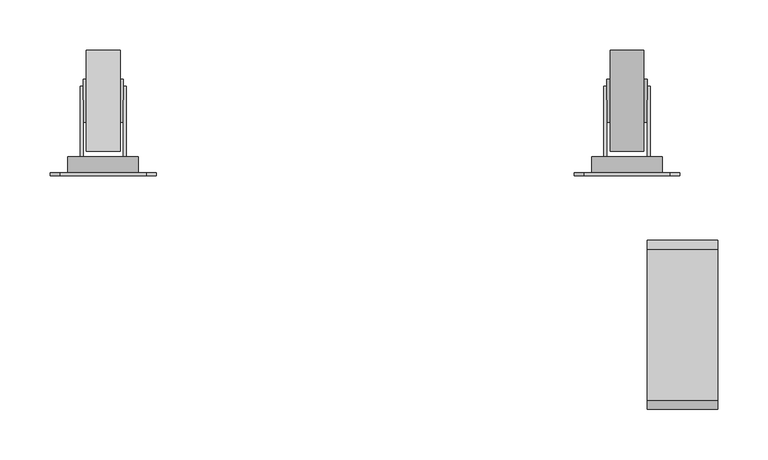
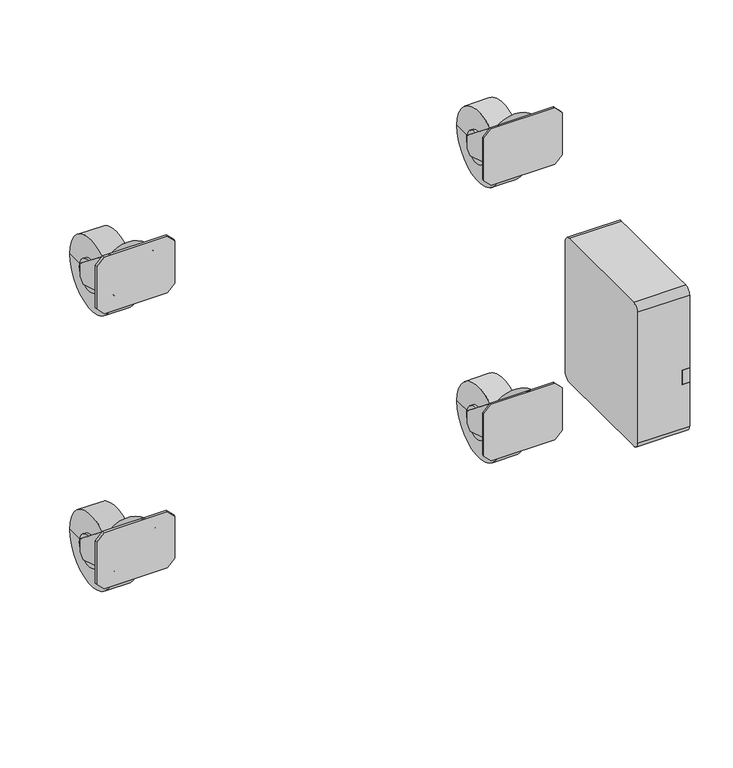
"""IFC4 building model written with IfcOpenShell, lengths in millimetres: proxy geometry, d&b SL-Series XSL-GSUB : XSL-GSUB."""

from ifc_helpers import new_model, si_unit, frame, origin, place, context, project, spatial, polyline, circle_curve, outline, extrude, source, transform, mapped, element, save
from ifc_brep_helpers import plane_surface, cylinder_surface, revolved_surface, advanced_brep


def communication_devices_84af1f5c(model_context):
    return source(origin(), model_context, "Body", "SolidModel", [
        advanced_brep(
        [(2275.0, 731.2505973, 89.499962), (2263.0, 731.2505973, 63.1181501), (2263.0, 731.2505973, 115.5781491), (2260.0, 731.2505973, 115.5781491), (2260.0, 731.2505973, 60.7771488), (2220.0, 731.2505973, 60.7771488), (2220.0, 731.2505973, 115.5781491), (2217.0, 731.2505973, 115.5781491), (2217.0, 731.2505973, 63.1181501), (2205.0, 731.2505973, 89.499962), (2205.0, 715.2505973, 89.499962), (2217.0, 715.2505973, 63.1181501), (2217.0, 715.2505973, 54.67524), (2220.0, 715.2505973, 54.67524), (2220.0, 715.2505973, 60.7771488), (2260.0, 715.2505973, 60.7771488), (2260.0, 715.2505973, 54.67524), (2263.0, 715.2505973, 54.67524), (2263.0, 715.2505973, 63.1181501), (2275.0, 715.2505973, 89.499962), (2263.0, 729.9505973, 54.67524), (2263.0, 794.4505973, 34.499962), (2263.0, 801.4505973, 41.499962), (2263.0, 801.4505973, 59.6264244), (2260.0, 801.4505973, 59.6264244), (2260.0, 801.4505973, 41.499962), (2260.0, 794.4505973, 34.499962), (2260.0, 729.9505973, 54.67524), (2217.0, 801.4505973, 59.6264244), (2217.0, 801.4505973, 41.499962), (2217.0, 794.4505973, 34.499962), (2217.0, 729.9505973, 54.67524), (2220.0, 729.9505973, 54.67524), (2220.0, 794.4505973, 34.499962), (2220.0, 801.4505973, 41.499962), (2220.0, 801.4505973, 59.6264244)],
        [
            (0, 1, circle_curve(frame((2240.0, 731.2505973, 89.499962), z_axis=(0.0, 1.0, 0.0), x_axis=(1.0, 0.0, 0.0)), 35.0)),
            (1, 2),
            (2, 3),
            (3, 4),
            (4, 5, circle_curve(frame((2240.0, 731.2505973, 89.499962), z_axis=(0.0, 1.0, 0.0), x_axis=(1.0, 0.0, 0.0)), 35.0)),
            (5, 6),
            (6, 7),
            (7, 8),
            (8, 9, circle_curve(frame((2240.0, 731.2505973, 89.499962), z_axis=(0.0, 1.0, 0.0), x_axis=(1.0, 0.0, 0.0)), 35.0)),
            (9, 0, circle_curve(frame((2240.0, 731.2505973, 89.499962), z_axis=(0.0, 1.0, 0.0), x_axis=(1.0, 0.0, 0.0)), 35.0)),
            (10, 11, circle_curve(frame((2240.0, 715.2505973, 89.499962), z_axis=(0.0, -1.0, 0.0), x_axis=(1.0, 0.0, 0.0)), 35.0)),
            (11, 12),
            (12, 13),
            (13, 14),
            (14, 15, circle_curve(frame((2240.0, 715.2505973, 89.499962), z_axis=(0.0, -1.0, 0.0), x_axis=(1.0, 0.0, 0.0)), 35.0)),
            (15, 16),
            (16, 17),
            (17, 18),
            (18, 19, circle_curve(frame((2240.0, 715.2505973, 89.499962), z_axis=(0.0, -1.0, 0.0), x_axis=(1.0, 0.0, 0.0)), 35.0)),
            (19, 10, circle_curve(frame((2240.0, 715.2505973, 89.499962), z_axis=(0.0, -1.0, 0.0), x_axis=(1.0, 0.0, 0.0)), 35.0)),
            (8, 11),
            (10, 9),
            (14, 5),
            (4, 15),
            (18, 1),
            (0, 19),
            (17, 20),
            (20, 21),
            (21, 22),
            (22, 23),
            (23, 2),
            (3, 24),
            (24, 25),
            (25, 26),
            (26, 27),
            (27, 16),
            (23, 24),
            (22, 25),
            (21, 26),
            (20, 27),
            (7, 28),
            (28, 29),
            (29, 30),
            (30, 31),
            (31, 12),
            (13, 32),
            (32, 33),
            (33, 34),
            (34, 35),
            (35, 6),
            (35, 28),
            (34, 29),
            (33, 30),
            (32, 31),
        ],
        [
            plane_surface(frame((2275.0, 731.2505973, 89.499962), z_axis=(0.0, 1.0, 0.0), x_axis=(0.0, 0.0, 1.0))),
            plane_surface(frame((2275.0, 715.2505973, 89.499962), z_axis=(0.0, -1.0, 0.0), x_axis=(0.0, 0.0, -1.0))),
            cylinder_surface(frame((2240.0, 715.2505973, 89.499962), z_axis=(0.0, 1.0, 0.0), x_axis=(1.0, 0.0, 0.0)), 35.0),
            plane_surface(frame((2263.0, 785.1202866, 72.6422228), z_axis=(1.0000000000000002, 0.0, 0.0), x_axis=(0.0, 0.7819992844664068, -0.6232793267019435))),
            plane_surface(frame((2260.0, 785.1202866, 72.6422228), z_axis=(-1.0000000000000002, 0.0, 0.0), x_axis=(0.0, -0.7819992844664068, 0.6232793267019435))),
            plane_surface(frame((2263.0, 731.2505973, 115.5781491), z_axis=(0.0, 0.6232793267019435, 0.7819992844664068), x_axis=(-1.0, 0.0, 0.0))),
            plane_surface(frame((2263.0, 801.4505973, 59.6264244), z_axis=(0.0, 1.0, 0.0), x_axis=(-1.0, 0.0, 0.0))),
            plane_surface(frame((2263.0, 801.4505973, 41.499962), z_axis=(0.0, 0.7071067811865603, -0.7071067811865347), x_axis=(-1.0, 0.0, 0.0))),
            plane_surface(frame((2263.0, 794.4505973, 34.499962), z_axis=(0.0, -0.29853148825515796, -0.9543997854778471), x_axis=(-1.0, 0.0, 0.0))),
            plane_surface(frame((2263.0, 729.9505973, 54.67524), z_axis=(0.0, 0.0, -1.0), x_axis=(-1.0, 0.0, 0.0))),
            plane_surface(frame((2217.0, 731.2505973, 115.5781491), z_axis=(-1.0, 0.0, 0.0), x_axis=(0.0, -1.0, 0.0))),
            plane_surface(frame((2220.0, 731.2505973, 115.5781491), z_axis=(1.0, 0.0, 0.0), x_axis=(0.0, 1.0, 0.0))),
            plane_surface(frame((2217.0, 801.4505973, 59.6264244), z_axis=(0.0, 0.6232793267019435, 0.7819992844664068), x_axis=(1.0, 0.0, 0.0))),
            plane_surface(frame((2217.0, 801.4505973, 41.499962), z_axis=(0.0, 1.0, 0.0), x_axis=(1.0, 0.0, 0.0))),
            plane_surface(frame((2217.0, 794.4505973, 34.499962), z_axis=(0.0, 0.7071067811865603, -0.7071067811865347), x_axis=(1.0, 0.0, 0.0))),
            plane_surface(frame((2217.0, 729.9505973, 54.67524), z_axis=(0.0, -0.29853148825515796, -0.9543997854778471), x_axis=(1.0, 0.0, 0.0))),
            plane_surface(frame((2217.0, 715.2505973, 54.67524), z_axis=(0.0, 0.0, -1.0), x_axis=(1.0, 0.0, 0.0))),
        ],
        [
            (0, [[1, 2, 3, 4, 5, 6, 7, 8, 9, 10]]),
            (1, [[11, 12, 13, 14, 15, 16, 17, 18, 19, 20]]),
            (2, [[-9, 21, -11, 22]]),
            (2, [[-15, 23, -5, 24]]),
            (2, [[-19, 25, -1, 26]]),
            (2, [[-22, -20, -26, -10]]),
            (3, [[-2, -25, -18, 27, 28, 29, 30, 31]]),
            (4, [[-16, -24, -4, 32, 33, 34, 35, 36]]),
            (5, [[37, -32, -3, -31]]),
            (6, [[38, -33, -37, -30]]),
            (7, [[39, -34, -38, -29]]),
            (8, [[40, -35, -39, -28]]),
            (9, [[-17, -36, -40, -27]]),
            (10, [[-12, -21, -8, 41, 42, 43, 44, 45]]),
            (11, [[-6, -23, -14, 46, 47, 48, 49, 50]]),
            (12, [[-7, -50, 51, -41]]),
            (13, [[-51, -49, 52, -42]]),
            (14, [[-52, -48, 53, -43]]),
            (15, [[-53, -47, 54, -44]]),
            (16, [[-54, -46, -13, -45]]),
        ],
    ),
        extrude(outline(polyline([(129.5, 2197.500038), (119.499962, 2187.5), (59.499962, 2187.5), (49.499924, 2197.500038), (49.499924, 2282.499962), (59.499962, 2292.5), (119.499962, 2292.5), (129.5, 2282.499962), (129.5, 2197.500038)])), frame((0.0, 712.2505973, 0.0), z_axis=(0.0, 1.0, 0.0), x_axis=(0.0, 0.0, 1.0)), (0.0, 0.0, 1.0), 3.0),
        advanced_brep(
        [(2256.6767578, 736.9067763, 49.9678867), (2223.3232422, 736.9067763, 49.9678867), (2223.3232422, 836.9067763, 49.9678867), (2256.6767578, 836.9067763, 49.9678867), (2256.6767578, 765.493179, 49.9678867), (2256.6767578, 808.3203735, 49.9678867), (2260.0, 765.493179, 49.9678867), (2260.0, 808.3203735, 49.9678867), (2260.0, 786.9067763, 49.9678867), (2220.0, 765.493179, 49.9678867), (2220.0, 786.9067763, 49.9678867), (2220.0, 808.3203735, 49.9678867), (2223.3232422, 765.493179, 49.9678867), (2223.3232422, 808.3203735, 49.9678867)],
        [
            (0, 1),
            (1, 2, circle_curve(frame((2223.3232422, 786.9067763, 49.9678867), z_axis=(1.0, 0.0, 0.0), x_axis=(0.0, 1.0, 0.0)), 50.0)),
            (2, 3),
            (3, 0, circle_curve(frame((2256.6767578, 786.9067763, 49.9678867), z_axis=(-1.0, 0.0, 0.0), x_axis=(0.0, 1.0, 0.0)), 50.0)),
            (2, 1, circle_curve(frame((2223.3232422, 786.9067763, 49.9678867), z_axis=(1.0, 0.0, 0.0), x_axis=(0.0, 1.0, 0.0)), 50.0)),
            (0, 3, circle_curve(frame((2256.6767578, 786.9067763, 49.9678867), z_axis=(-1.0, 0.0, 0.0), x_axis=(0.0, 1.0, 0.0)), 50.0)),
            (4, 0),
            (3, 5),
            (5, 4, circle_curve(frame((2256.6767578, 786.9067763, 49.9678867), z_axis=(-1.0, 0.0, 0.0), x_axis=(0.0, 1.0, 0.0)), 21.4135972)),
            (4, 5, circle_curve(frame((2256.6767578, 786.9067763, 49.9678867), z_axis=(-1.0, 0.0, 0.0), x_axis=(0.0, 1.0, 0.0)), 21.4135972)),
            (6, 4),
            (5, 7),
            (7, 6, circle_curve(frame((2260.0, 786.9067763, 49.9678867), z_axis=(-1.0, 0.0, 0.0), x_axis=(0.0, 1.0, 0.0)), 21.4135972)),
            (6, 7, circle_curve(frame((2260.0, 786.9067763, 49.9678867), z_axis=(-1.0, 0.0, 0.0), x_axis=(0.0, 1.0, 0.0)), 21.4135972)),
            (8, 6),
            (7, 8),
            (9, 10),
            (10, 11),
            (11, 9, circle_curve(frame((2220.0, 786.9067763, 49.9678867), z_axis=(-1.0, 0.0, 0.0), x_axis=(0.0, 1.0, 0.0)), 21.4135972)),
            (9, 11, circle_curve(frame((2220.0, 786.9067763, 49.9678867), z_axis=(-1.0, 0.0, 0.0), x_axis=(0.0, 1.0, 0.0)), 21.4135972)),
            (12, 9),
            (11, 13),
            (13, 12, circle_curve(frame((2223.3232422, 786.9067763, 49.9678867), z_axis=(-1.0, 0.0, 0.0), x_axis=(0.0, 1.0, 0.0)), 21.4135972)),
            (12, 13, circle_curve(frame((2223.3232422, 786.9067763, 49.9678867), z_axis=(-1.0, 0.0, 0.0), x_axis=(0.0, 1.0, 0.0)), 21.4135972)),
            (1, 12),
            (13, 2),
        ],
        [
            cylinder_surface(frame((2282.9432543, 786.9067763, 49.9678867), z_axis=(1.0, 0.0, 0.0), x_axis=(0.0, 1.0, 0.0)), 50.0),
            plane_surface(frame((2256.6767578, 786.9067763, 49.9678867), z_axis=(1.0, 0.0, 0.0), x_axis=(0.0, 1.0, 0.0))),
            cylinder_surface(frame((2282.9432543, 786.9067763, 49.9678867), z_axis=(1.0, 0.0, 0.0), x_axis=(0.0, 1.0, 0.0)), 21.4135972),
            plane_surface(frame((2260.0, 786.9067763, 49.9678867), z_axis=(1.0, 0.0, 0.0), x_axis=(0.0, 1.0, 0.0))),
            plane_surface(frame((2220.0, 786.9067763, 49.9678867), z_axis=(-1.0, 0.0, 0.0), x_axis=(0.0, 1.0, 0.0))),
            plane_surface(frame((2223.3232422, 786.9067763, 49.9678867), z_axis=(-1.0, 0.0, 0.0), x_axis=(0.0, 1.0, 0.0))),
        ],
        [
            (0, [[1, 2, 3, 4]]),
            (0, [[-3, 5, -1, 6]]),
            (1, [[7, -4, 8, 9]]),
            (1, [[-8, -6, -7, 10]]),
            (2, [[11, -9, 12, 13]]),
            (2, [[-12, -10, -11, 14]]),
            (3, [[15, -13, 16]]),
            (3, [[-16, -14, -15]]),
            (4, [[17, 18, 19]]),
            (4, [[-18, -17, 20]]),
            (2, [[21, -19, 22, 23]]),
            (2, [[-22, -20, -21, 24]]),
            (5, [[25, -23, 26, -2]]),
            (5, [[-26, -24, -25, -5]]),
        ],
    ),
        advanced_brep(
        [(2725.0, 731.2505973, 89.499962), (2795.0, 731.2505973, 89.499962), (2783.0, 731.2505973, 63.1181501), (2783.0, 731.2505973, 115.5781491), (2780.0, 731.2505973, 115.5781491), (2780.0, 731.2505973, 60.7771488), (2740.0, 731.2505973, 60.7771488), (2740.0, 731.2505973, 115.5781491), (2737.0, 731.2505973, 115.5781491), (2737.0, 731.2505973, 63.1181501), (2795.0, 715.2505973, 89.499962), (2725.0, 715.2505973, 89.499962), (2737.0, 715.2505973, 63.1181501), (2737.0, 715.2505973, 54.67524), (2740.0, 715.2505973, 54.67524), (2740.0, 715.2505973, 60.7771488), (2780.0, 715.2505973, 60.7771488), (2780.0, 715.2505973, 54.67524), (2783.0, 715.2505973, 54.67524), (2783.0, 715.2505973, 63.1181501), (2737.0, 801.4505973, 59.6264244), (2737.0, 801.4505973, 41.499962), (2737.0, 794.4505973, 34.499962), (2737.0, 729.9505973, 54.67524), (2740.0, 729.9505973, 54.67524), (2740.0, 794.4505973, 34.499962), (2740.0, 801.4505973, 41.499962), (2740.0, 801.4505973, 59.6264244), (2783.0, 729.9505973, 54.67524), (2783.0, 794.4505973, 34.499962), (2783.0, 801.4505973, 41.499962), (2783.0, 801.4505973, 59.6264244), (2780.0, 801.4505973, 59.6264244), (2780.0, 801.4505973, 41.499962), (2780.0, 794.4505973, 34.499962), (2780.0, 729.9505973, 54.67524)],
        [
            (0, 1, circle_curve(frame((2760.0, 731.2505973, 89.499962), z_axis=(0.0, 1.0, 0.0), x_axis=(-1.0, 0.0, 0.0)), 35.0)),
            (1, 2, circle_curve(frame((2760.0, 731.2505973, 89.499962), z_axis=(0.0, 1.0, 0.0), x_axis=(-1.0, 0.0, 0.0)), 35.0)),
            (2, 3),
            (3, 4),
            (4, 5),
            (5, 6, circle_curve(frame((2760.0, 731.2505973, 89.499962), z_axis=(0.0, 1.0, 0.0), x_axis=(-1.0, 0.0, 0.0)), 35.0)),
            (6, 7),
            (7, 8),
            (8, 9),
            (9, 0, circle_curve(frame((2760.0, 731.2505973, 89.499962), z_axis=(0.0, 1.0, 0.0), x_axis=(-1.0, 0.0, 0.0)), 35.0)),
            (10, 11, circle_curve(frame((2760.0, 715.2505973, 89.499962), z_axis=(0.0, -1.0, 0.0), x_axis=(-1.0, 0.0, 0.0)), 35.0)),
            (11, 12, circle_curve(frame((2760.0, 715.2505973, 89.499962), z_axis=(0.0, -1.0, 0.0), x_axis=(-1.0, 0.0, 0.0)), 35.0)),
            (12, 13),
            (13, 14),
            (14, 15),
            (15, 16, circle_curve(frame((2760.0, 715.2505973, 89.499962), z_axis=(0.0, -1.0, 0.0), x_axis=(-1.0, 0.0, 0.0)), 35.0)),
            (16, 17),
            (17, 18),
            (18, 19),
            (19, 10, circle_curve(frame((2760.0, 715.2505973, 89.499962), z_axis=(0.0, -1.0, 0.0), x_axis=(-1.0, 0.0, 0.0)), 35.0)),
            (1, 10),
            (19, 2),
            (15, 6),
            (5, 16),
            (11, 0),
            (9, 12),
            (8, 20),
            (20, 21),
            (21, 22),
            (22, 23),
            (23, 13),
            (14, 24),
            (24, 25),
            (25, 26),
            (26, 27),
            (27, 7),
            (27, 20),
            (26, 21),
            (25, 22),
            (24, 23),
            (18, 28),
            (28, 29),
            (29, 30),
            (30, 31),
            (31, 3),
            (4, 32),
            (32, 33),
            (33, 34),
            (34, 35),
            (35, 17),
            (31, 32),
            (30, 33),
            (29, 34),
            (28, 35),
        ],
        [
            plane_surface(frame((2725.0, 731.2505973, 89.499962), z_axis=(0.0, 1.0, 0.0), x_axis=(0.0, 0.0, 1.0))),
            plane_surface(frame((2725.0, 715.2505973, 89.499962), z_axis=(0.0, -1.0, 0.0), x_axis=(0.0, 0.0, -1.0))),
            cylinder_surface(frame((2760.0, 715.2505973, 89.499962), z_axis=(0.0, 1.0, 0.0), x_axis=(-1.0, 0.0, 0.0)), 35.0),
            plane_surface(frame((2737.0, 785.1202866, 72.6422228), z_axis=(-1.0000000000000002, 0.0, 0.0), x_axis=(0.0, 0.7819992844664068, -0.6232793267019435))),
            plane_surface(frame((2740.0, 785.1202866, 72.6422228), z_axis=(1.0000000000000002, 0.0, 0.0), x_axis=(0.0, -0.7819992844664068, 0.6232793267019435))),
            plane_surface(frame((2737.0, 731.2505973, 115.5781491), z_axis=(0.0, 0.6232793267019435, 0.7819992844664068), x_axis=(1.0, 0.0, 0.0))),
            plane_surface(frame((2737.0, 801.4505973, 59.6264244), z_axis=(0.0, 1.0, 0.0), x_axis=(1.0, 0.0, 0.0))),
            plane_surface(frame((2737.0, 801.4505973, 41.499962), z_axis=(0.0, 0.7071067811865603, -0.7071067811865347), x_axis=(1.0, 0.0, 0.0))),
            plane_surface(frame((2737.0, 794.4505973, 34.499962), z_axis=(0.0, -0.29853148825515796, -0.9543997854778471), x_axis=(1.0, 0.0, 0.0))),
            plane_surface(frame((2737.0, 729.9505973, 54.67524), z_axis=(0.0, 0.0, -1.0), x_axis=(1.0, 0.0, 0.0))),
            plane_surface(frame((2783.0, 731.2505973, 115.5781491), z_axis=(1.0, 0.0, 0.0), x_axis=(0.0, -1.0, 0.0))),
            plane_surface(frame((2780.0, 731.2505973, 115.5781491), z_axis=(-1.0, 0.0, 0.0), x_axis=(0.0, 1.0, 0.0))),
            plane_surface(frame((2783.0, 801.4505973, 59.6264244), z_axis=(0.0, 0.6232793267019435, 0.7819992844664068), x_axis=(-1.0, 0.0, 0.0))),
            plane_surface(frame((2783.0, 801.4505973, 41.499962), z_axis=(0.0, 1.0, 0.0), x_axis=(-1.0, 0.0, 0.0))),
            plane_surface(frame((2783.0, 794.4505973, 34.499962), z_axis=(0.0, 0.7071067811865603, -0.7071067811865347), x_axis=(-1.0, 0.0, 0.0))),
            plane_surface(frame((2783.0, 729.9505973, 54.67524), z_axis=(0.0, -0.29853148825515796, -0.9543997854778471), x_axis=(-1.0, 0.0, 0.0))),
            plane_surface(frame((2783.0, 715.2505973, 54.67524), z_axis=(0.0, 0.0, -1.0), x_axis=(-1.0, 0.0, 0.0))),
        ],
        [
            (0, [[1, 2, 3, 4, 5, 6, 7, 8, 9, 10]]),
            (1, [[11, 12, 13, 14, 15, 16, 17, 18, 19, 20]]),
            (2, [[21, -20, 22, -2]]),
            (2, [[23, -6, 24, -16]]),
            (2, [[25, -10, 26, -12]]),
            (2, [[-1, -25, -11, -21]]),
            (3, [[27, 28, 29, 30, 31, -13, -26, -9]]),
            (4, [[32, 33, 34, 35, 36, -7, -23, -15]]),
            (5, [[-27, -8, -36, 37]]),
            (6, [[-28, -37, -35, 38]]),
            (7, [[-29, -38, -34, 39]]),
            (8, [[-30, -39, -33, 40]]),
            (9, [[-31, -40, -32, -14]]),
            (10, [[41, 42, 43, 44, 45, -3, -22, -19]]),
            (11, [[46, 47, 48, 49, 50, -17, -24, -5]]),
            (12, [[-45, 51, -46, -4]]),
            (13, [[-44, 52, -47, -51]]),
            (14, [[-43, 53, -48, -52]]),
            (15, [[-42, 54, -49, -53]]),
            (16, [[-41, -18, -50, -54]]),
        ],
    ),
        extrude(outline(polyline([(129.5, 2802.499962), (129.5, 2717.500038), (119.499962, 2707.5), (59.499962, 2707.5), (49.499924, 2717.500038), (49.499924, 2802.499962), (59.499962, 2812.5), (119.499962, 2812.5), (129.5, 2802.499962)])), frame((0.0, 712.2505973, 0.0), z_axis=(0.0, 1.0, 0.0), x_axis=(0.0, 0.0, 1.0)), (0.0, 0.0, 1.0), 3.0),
        advanced_brep(
        [(2743.3232422, 736.9067763, 49.9678867), (2743.3232422, 836.9067763, 49.9678867), (2776.6767578, 836.9067763, 49.9678867), (2776.6767578, 736.9067763, 49.9678867), (2743.3232422, 765.493179, 49.9678867), (2743.3232422, 808.3203735, 49.9678867), (2740.0, 765.493179, 49.9678867), (2740.0, 808.3203735, 49.9678867), (2740.0, 786.9067763, 49.9678867), (2780.0, 765.493179, 49.9678867), (2780.0, 808.3203735, 49.9678867), (2780.0, 786.9067763, 49.9678867), (2776.6767578, 765.493179, 49.9678867), (2776.6767578, 808.3203735, 49.9678867)],
        [
            (0, 1, circle_curve(frame((2743.3232422, 786.9067763, 49.9678867), z_axis=(1.0, 0.0, 0.0), x_axis=(0.0, 1.0, 0.0)), 50.0)),
            (1, 2),
            (2, 3, circle_curve(frame((2776.6767578, 786.9067763, 49.9678867), z_axis=(-1.0, 0.0, 0.0), x_axis=(0.0, 1.0, 0.0)), 50.0)),
            (3, 0),
            (1, 0, circle_curve(frame((2743.3232422, 786.9067763, 49.9678867), z_axis=(1.0, 0.0, 0.0), x_axis=(0.0, 1.0, 0.0)), 50.0)),
            (3, 2, circle_curve(frame((2776.6767578, 786.9067763, 49.9678867), z_axis=(-1.0, 0.0, 0.0), x_axis=(0.0, 1.0, 0.0)), 50.0)),
            (4, 5, circle_curve(frame((2743.3232422, 786.9067763, 49.9678867), z_axis=(1.0, 0.0, 0.0), x_axis=(0.0, 1.0, 0.0)), 21.4135972)),
            (5, 1),
            (0, 4),
            (5, 4, circle_curve(frame((2743.3232422, 786.9067763, 49.9678867), z_axis=(1.0, 0.0, 0.0), x_axis=(0.0, 1.0, 0.0)), 21.4135972)),
            (6, 7, circle_curve(frame((2740.0, 786.9067763, 49.9678867), z_axis=(1.0, 0.0, 0.0), x_axis=(0.0, 1.0, 0.0)), 21.4135972)),
            (7, 5),
            (4, 6),
            (7, 6, circle_curve(frame((2740.0, 786.9067763, 49.9678867), z_axis=(1.0, 0.0, 0.0), x_axis=(0.0, 1.0, 0.0)), 21.4135972)),
            (8, 7),
            (6, 8),
            (9, 10, circle_curve(frame((2780.0, 786.9067763, 49.9678867), z_axis=(1.0, 0.0, 0.0), x_axis=(0.0, 1.0, 0.0)), 21.4135972)),
            (10, 11),
            (11, 9),
            (10, 9, circle_curve(frame((2780.0, 786.9067763, 49.9678867), z_axis=(1.0, 0.0, 0.0), x_axis=(0.0, 1.0, 0.0)), 21.4135972)),
            (12, 13, circle_curve(frame((2776.6767578, 786.9067763, 49.9678867), z_axis=(1.0, 0.0, 0.0), x_axis=(0.0, 1.0, 0.0)), 21.4135972)),
            (13, 10),
            (9, 12),
            (13, 12, circle_curve(frame((2776.6767578, 786.9067763, 49.9678867), z_axis=(1.0, 0.0, 0.0), x_axis=(0.0, 1.0, 0.0)), 21.4135972)),
            (2, 13),
            (12, 3),
        ],
        [
            cylinder_surface(frame((2717.0567457, 786.9067763, 49.9678867), z_axis=(-1.0, 0.0, 0.0), x_axis=(0.0, 1.0, 0.0)), 50.0),
            plane_surface(frame((2743.3232422, 786.9067763, 49.9678867), z_axis=(-1.0, 0.0, 0.0), x_axis=(0.0, 1.0, 0.0))),
            cylinder_surface(frame((2717.0567457, 786.9067763, 49.9678867), z_axis=(-1.0, 0.0, 0.0), x_axis=(0.0, 1.0, 0.0)), 21.4135972),
            plane_surface(frame((2740.0, 786.9067763, 49.9678867), z_axis=(-1.0, 0.0, 0.0), x_axis=(0.0, 1.0, 0.0))),
            plane_surface(frame((2780.0, 786.9067763, 49.9678867), z_axis=(1.0, 0.0, 0.0), x_axis=(0.0, 1.0, 0.0))),
            plane_surface(frame((2776.6767578, 786.9067763, 49.9678867), z_axis=(1.0, 0.0, 0.0), x_axis=(0.0, 1.0, 0.0))),
        ],
        [
            (0, [[1, 2, 3, 4]]),
            (0, [[5, -4, 6, -2]]),
            (1, [[7, 8, -1, 9]]),
            (1, [[10, -9, -5, -8]]),
            (2, [[11, 12, -7, 13]]),
            (2, [[14, -13, -10, -12]]),
            (3, [[15, -11, 16]]),
            (3, [[-16, -14, -15]]),
            (4, [[17, 18, 19]]),
            (4, [[20, -19, -18]]),
            (2, [[21, 22, -17, 23]]),
            (2, [[24, -23, -20, -22]]),
            (5, [[-3, 25, -21, 26]]),
            (5, [[-6, -26, -24, -25]]),
        ],
    ),
        advanced_brep(
        [(2275.0, 731.2505973, 480.499962), (2263.0, 731.2505973, 454.1181501), (2263.0, 731.2505973, 506.5781491), (2260.0, 731.2505973, 506.5781491), (2260.0, 731.2505973, 451.7771488), (2220.0, 731.2505973, 451.7771488), (2220.0, 731.2505973, 506.5781491), (2217.0, 731.2505973, 506.5781491), (2217.0, 731.2505973, 454.1181501), (2205.0, 731.2505973, 480.499962), (2205.0, 715.2505973, 480.499962), (2217.0, 715.2505973, 454.1181501), (2217.0, 715.2505973, 445.67524), (2220.0, 715.2505973, 445.67524), (2220.0, 715.2505973, 451.7771488), (2260.0, 715.2505973, 451.7771488), (2260.0, 715.2505973, 445.67524), (2263.0, 715.2505973, 445.67524), (2263.0, 715.2505973, 454.1181501), (2275.0, 715.2505973, 480.499962), (2263.0, 729.9505973, 445.67524), (2263.0, 794.4505973, 425.499962), (2263.0, 801.4505973, 432.499962), (2263.0, 801.4505973, 450.6264244), (2260.0, 801.4505973, 450.6264244), (2260.0, 801.4505973, 432.499962), (2260.0, 794.4505973, 425.499962), (2260.0, 729.9505973, 445.67524), (2217.0, 801.4505973, 450.6264244), (2217.0, 801.4505973, 432.499962), (2217.0, 794.4505973, 425.499962), (2217.0, 729.9505973, 445.67524), (2220.0, 729.9505973, 445.67524), (2220.0, 794.4505973, 425.499962), (2220.0, 801.4505973, 432.499962), (2220.0, 801.4505973, 450.6264244)],
        [
            (0, 1, circle_curve(frame((2240.0, 731.2505973, 480.499962), z_axis=(0.0, 1.0, 0.0), x_axis=(1.0, 0.0, 0.0)), 35.0)),
            (1, 2),
            (2, 3),
            (3, 4),
            (4, 5, circle_curve(frame((2240.0, 731.2505973, 480.499962), z_axis=(0.0, 1.0, 0.0), x_axis=(1.0, 0.0, 0.0)), 35.0)),
            (5, 6),
            (6, 7),
            (7, 8),
            (8, 9, circle_curve(frame((2240.0, 731.2505973, 480.499962), z_axis=(0.0, 1.0, 0.0), x_axis=(1.0, 0.0, 0.0)), 35.0)),
            (9, 0, circle_curve(frame((2240.0, 731.2505973, 480.499962), z_axis=(0.0, 1.0, 0.0), x_axis=(1.0, 0.0, 0.0)), 35.0)),
            (10, 11, circle_curve(frame((2240.0, 715.2505973, 480.499962), z_axis=(0.0, -1.0, 0.0), x_axis=(1.0, 0.0, 0.0)), 35.0)),
            (11, 12),
            (12, 13),
            (13, 14),
            (14, 15, circle_curve(frame((2240.0, 715.2505973, 480.499962), z_axis=(0.0, -1.0, 0.0), x_axis=(1.0, 0.0, 0.0)), 35.0)),
            (15, 16),
            (16, 17),
            (17, 18),
            (18, 19, circle_curve(frame((2240.0, 715.2505973, 480.499962), z_axis=(0.0, -1.0, 0.0), x_axis=(1.0, 0.0, 0.0)), 35.0)),
            (19, 10, circle_curve(frame((2240.0, 715.2505973, 480.499962), z_axis=(0.0, -1.0, 0.0), x_axis=(1.0, 0.0, 0.0)), 35.0)),
            (8, 11),
            (10, 9),
            (14, 5),
            (4, 15),
            (18, 1),
            (0, 19),
            (17, 20),
            (20, 21),
            (21, 22),
            (22, 23),
            (23, 2),
            (3, 24),
            (24, 25),
            (25, 26),
            (26, 27),
            (27, 16),
            (23, 24),
            (22, 25),
            (21, 26),
            (20, 27),
            (7, 28),
            (28, 29),
            (29, 30),
            (30, 31),
            (31, 12),
            (13, 32),
            (32, 33),
            (33, 34),
            (34, 35),
            (35, 6),
            (35, 28),
            (34, 29),
            (33, 30),
            (32, 31),
        ],
        [
            plane_surface(frame((2275.0, 731.2505973, 480.499962), z_axis=(0.0, 1.0, 0.0), x_axis=(0.0, 0.0, 1.0))),
            plane_surface(frame((2275.0, 715.2505973, 480.499962), z_axis=(0.0, -1.0, 0.0), x_axis=(0.0, 0.0, -1.0))),
            cylinder_surface(frame((2240.0, 715.2505973, 480.499962), z_axis=(0.0, 1.0, 0.0), x_axis=(1.0, 0.0, 0.0)), 35.0),
            plane_surface(frame((2263.0, 785.1202866, 463.6422228), z_axis=(1.0000000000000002, 0.0, 0.0), x_axis=(0.0, 0.7819992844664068, -0.6232793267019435))),
            plane_surface(frame((2260.0, 785.1202866, 463.6422228), z_axis=(-1.0000000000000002, 0.0, 0.0), x_axis=(0.0, -0.7819992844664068, 0.6232793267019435))),
            plane_surface(frame((2263.0, 731.2505973, 506.5781491), z_axis=(0.0, 0.6232793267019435, 0.7819992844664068), x_axis=(-1.0, 0.0, 0.0))),
            plane_surface(frame((2263.0, 801.4505973, 450.6264244), z_axis=(0.0, 1.0, 0.0), x_axis=(-1.0, 0.0, 0.0))),
            plane_surface(frame((2263.0, 801.4505973, 432.499962), z_axis=(0.0, 0.7071067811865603, -0.7071067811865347), x_axis=(-1.0, 0.0, 0.0))),
            plane_surface(frame((2263.0, 794.4505973, 425.499962), z_axis=(0.0, -0.29853148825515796, -0.9543997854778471), x_axis=(-1.0, 0.0, 0.0))),
            plane_surface(frame((2263.0, 729.9505973, 445.67524), z_axis=(0.0, 0.0, -1.0), x_axis=(-1.0, 0.0, 0.0))),
            plane_surface(frame((2217.0, 731.2505973, 506.5781491), z_axis=(-1.0, 0.0, 0.0), x_axis=(0.0, -1.0, 0.0))),
            plane_surface(frame((2220.0, 731.2505973, 506.5781491), z_axis=(1.0, 0.0, 0.0), x_axis=(0.0, 1.0, 0.0))),
            plane_surface(frame((2217.0, 801.4505973, 450.6264244), z_axis=(0.0, 0.6232793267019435, 0.7819992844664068), x_axis=(1.0, 0.0, 0.0))),
            plane_surface(frame((2217.0, 801.4505973, 432.499962), z_axis=(0.0, 1.0, 0.0), x_axis=(1.0, 0.0, 0.0))),
            plane_surface(frame((2217.0, 794.4505973, 425.499962), z_axis=(0.0, 0.7071067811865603, -0.7071067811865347), x_axis=(1.0, 0.0, 0.0))),
            plane_surface(frame((2217.0, 729.9505973, 445.67524), z_axis=(0.0, -0.29853148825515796, -0.9543997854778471), x_axis=(1.0, 0.0, 0.0))),
            plane_surface(frame((2217.0, 715.2505973, 445.67524), z_axis=(0.0, 0.0, -1.0), x_axis=(1.0, 0.0, 0.0))),
        ],
        [
            (0, [[1, 2, 3, 4, 5, 6, 7, 8, 9, 10]]),
            (1, [[11, 12, 13, 14, 15, 16, 17, 18, 19, 20]]),
            (2, [[-9, 21, -11, 22]]),
            (2, [[-15, 23, -5, 24]]),
            (2, [[-19, 25, -1, 26]]),
            (2, [[-22, -20, -26, -10]]),
            (3, [[-2, -25, -18, 27, 28, 29, 30, 31]]),
            (4, [[-16, -24, -4, 32, 33, 34, 35, 36]]),
            (5, [[37, -32, -3, -31]]),
            (6, [[38, -33, -37, -30]]),
            (7, [[39, -34, -38, -29]]),
            (8, [[40, -35, -39, -28]]),
            (9, [[-17, -36, -40, -27]]),
            (10, [[-12, -21, -8, 41, 42, 43, 44, 45]]),
            (11, [[-6, -23, -14, 46, 47, 48, 49, 50]]),
            (12, [[-7, -50, 51, -41]]),
            (13, [[-51, -49, 52, -42]]),
            (14, [[-52, -48, 53, -43]]),
            (15, [[-53, -47, 54, -44]]),
            (16, [[-54, -46, -13, -45]]),
        ],
    ),
        extrude(outline(polyline([(520.5, 2197.500038), (510.499962, 2187.5), (450.499962, 2187.5), (440.499924, 2197.500038), (440.499924, 2282.499962), (450.499962, 2292.5), (510.499962, 2292.5), (520.5, 2282.499962), (520.5, 2197.500038)])), frame((0.0, 712.2505973, 0.0), z_axis=(0.0, 1.0, 0.0), x_axis=(0.0, 0.0, 1.0)), (0.0, 0.0, 1.0), 3.0),
        advanced_brep(
        [(2256.6767578, 736.9067763, 440.9678867), (2223.3232422, 736.9067763, 440.9678867), (2223.3232422, 836.9067763, 440.9678867), (2256.6767578, 836.9067763, 440.9678867), (2256.6767578, 765.493179, 440.9678867), (2256.6767578, 808.3203735, 440.9678867), (2260.0, 765.493179, 440.9678867), (2260.0, 808.3203735, 440.9678867), (2260.0, 786.9067763, 440.9678867), (2220.0, 765.493179, 440.9678867), (2220.0, 786.9067763, 440.9678867), (2220.0, 808.3203735, 440.9678867), (2223.3232422, 765.493179, 440.9678867), (2223.3232422, 808.3203735, 440.9678867)],
        [
            (0, 1),
            (1, 2, circle_curve(frame((2223.3232422, 786.9067763, 440.9678867), z_axis=(1.0, 0.0, 0.0), x_axis=(0.0, 1.0, 0.0)), 50.0)),
            (2, 3),
            (3, 0, circle_curve(frame((2256.6767578, 786.9067763, 440.9678867), z_axis=(-1.0, 0.0, 0.0), x_axis=(0.0, 1.0, 0.0)), 50.0)),
            (2, 1, circle_curve(frame((2223.3232422, 786.9067763, 440.9678867), z_axis=(1.0, 0.0, 0.0), x_axis=(0.0, 1.0, 0.0)), 50.0)),
            (0, 3, circle_curve(frame((2256.6767578, 786.9067763, 440.9678867), z_axis=(-1.0, 0.0, 0.0), x_axis=(0.0, 1.0, 0.0)), 50.0)),
            (4, 0),
            (3, 5),
            (5, 4, circle_curve(frame((2256.6767578, 786.9067763, 440.9678867), z_axis=(-1.0, 0.0, 0.0), x_axis=(0.0, 1.0, 0.0)), 21.4135972)),
            (4, 5, circle_curve(frame((2256.6767578, 786.9067763, 440.9678867), z_axis=(-1.0, 0.0, 0.0), x_axis=(0.0, 1.0, 0.0)), 21.4135972)),
            (6, 4),
            (5, 7),
            (7, 6, circle_curve(frame((2260.0, 786.9067763, 440.9678867), z_axis=(-1.0, 0.0, 0.0), x_axis=(0.0, 1.0, 0.0)), 21.4135972)),
            (6, 7, circle_curve(frame((2260.0, 786.9067763, 440.9678867), z_axis=(-1.0, 0.0, 0.0), x_axis=(0.0, 1.0, 0.0)), 21.4135972)),
            (8, 6),
            (7, 8),
            (9, 10),
            (10, 11),
            (11, 9, circle_curve(frame((2220.0, 786.9067763, 440.9678867), z_axis=(-1.0, 0.0, 0.0), x_axis=(0.0, 1.0, 0.0)), 21.4135972)),
            (9, 11, circle_curve(frame((2220.0, 786.9067763, 440.9678867), z_axis=(-1.0, 0.0, 0.0), x_axis=(0.0, 1.0, 0.0)), 21.4135972)),
            (12, 9),
            (11, 13),
            (13, 12, circle_curve(frame((2223.3232422, 786.9067763, 440.9678867), z_axis=(-1.0, 0.0, 0.0), x_axis=(0.0, 1.0, 0.0)), 21.4135972)),
            (12, 13, circle_curve(frame((2223.3232422, 786.9067763, 440.9678867), z_axis=(-1.0, 0.0, 0.0), x_axis=(0.0, 1.0, 0.0)), 21.4135972)),
            (1, 12),
            (13, 2),
        ],
        [
            cylinder_surface(frame((2282.9432543, 786.9067763, 440.9678867), z_axis=(1.0, 0.0, 0.0), x_axis=(0.0, 1.0, 0.0)), 50.0),
            plane_surface(frame((2256.6767578, 786.9067763, 440.9678867), z_axis=(1.0, 0.0, 0.0), x_axis=(0.0, 1.0, 0.0))),
            cylinder_surface(frame((2282.9432543, 786.9067763, 440.9678867), z_axis=(1.0, 0.0, 0.0), x_axis=(0.0, 1.0, 0.0)), 21.4135972),
            plane_surface(frame((2260.0, 786.9067763, 440.9678867), z_axis=(1.0, 0.0, 0.0), x_axis=(0.0, 1.0, 0.0))),
            plane_surface(frame((2220.0, 786.9067763, 440.9678867), z_axis=(-1.0, 0.0, 0.0), x_axis=(0.0, 1.0, 0.0))),
            plane_surface(frame((2223.3232422, 786.9067763, 440.9678867), z_axis=(-1.0, 0.0, 0.0), x_axis=(0.0, 1.0, 0.0))),
        ],
        [
            (0, [[1, 2, 3, 4]]),
            (0, [[-3, 5, -1, 6]]),
            (1, [[7, -4, 8, 9]]),
            (1, [[-8, -6, -7, 10]]),
            (2, [[11, -9, 12, 13]]),
            (2, [[-12, -10, -11, 14]]),
            (3, [[15, -13, 16]]),
            (3, [[-16, -14, -15]]),
            (4, [[17, 18, 19]]),
            (4, [[-18, -17, 20]]),
            (2, [[21, -19, 22, 23]]),
            (2, [[-22, -20, -21, 24]]),
            (5, [[25, -23, 26, -2]]),
            (5, [[-26, -24, -25, -5]]),
        ],
    ),
        advanced_brep(
        [(2725.0, 731.2505973, 480.499962), (2795.0, 731.2505973, 480.499962), (2783.0, 731.2505973, 454.1181501), (2783.0, 731.2505973, 506.5781491), (2780.0, 731.2505973, 506.5781491), (2780.0, 731.2505973, 451.7771488), (2740.0, 731.2505973, 451.7771488), (2740.0, 731.2505973, 506.5781491), (2737.0, 731.2505973, 506.5781491), (2737.0, 731.2505973, 454.1181501), (2795.0, 715.2505973, 480.499962), (2725.0, 715.2505973, 480.499962), (2737.0, 715.2505973, 454.1181501), (2737.0, 715.2505973, 445.67524), (2740.0, 715.2505973, 445.67524), (2740.0, 715.2505973, 451.7771488), (2780.0, 715.2505973, 451.7771488), (2780.0, 715.2505973, 445.67524), (2783.0, 715.2505973, 445.67524), (2783.0, 715.2505973, 454.1181501), (2737.0, 801.4505973, 450.6264244), (2737.0, 801.4505973, 432.499962), (2737.0, 794.4505973, 425.499962), (2737.0, 729.9505973, 445.67524), (2740.0, 729.9505973, 445.67524), (2740.0, 794.4505973, 425.499962), (2740.0, 801.4505973, 432.499962), (2740.0, 801.4505973, 450.6264244), (2783.0, 729.9505973, 445.67524), (2783.0, 794.4505973, 425.499962), (2783.0, 801.4505973, 432.499962), (2783.0, 801.4505973, 450.6264244), (2780.0, 801.4505973, 450.6264244), (2780.0, 801.4505973, 432.499962), (2780.0, 794.4505973, 425.499962), (2780.0, 729.9505973, 445.67524)],
        [
            (0, 1, circle_curve(frame((2760.0, 731.2505973, 480.499962), z_axis=(0.0, 1.0, 0.0), x_axis=(-1.0, 0.0, 0.0)), 35.0)),
            (1, 2, circle_curve(frame((2760.0, 731.2505973, 480.499962), z_axis=(0.0, 1.0, 0.0), x_axis=(-1.0, 0.0, 0.0)), 35.0)),
            (2, 3),
            (3, 4),
            (4, 5),
            (5, 6, circle_curve(frame((2760.0, 731.2505973, 480.499962), z_axis=(0.0, 1.0, 0.0), x_axis=(-1.0, 0.0, 0.0)), 35.0)),
            (6, 7),
            (7, 8),
            (8, 9),
            (9, 0, circle_curve(frame((2760.0, 731.2505973, 480.499962), z_axis=(0.0, 1.0, 0.0), x_axis=(-1.0, 0.0, 0.0)), 35.0)),
            (10, 11, circle_curve(frame((2760.0, 715.2505973, 480.499962), z_axis=(0.0, -1.0, 0.0), x_axis=(-1.0, 0.0, 0.0)), 35.0)),
            (11, 12, circle_curve(frame((2760.0, 715.2505973, 480.499962), z_axis=(0.0, -1.0, 0.0), x_axis=(-1.0, 0.0, 0.0)), 35.0)),
            (12, 13),
            (13, 14),
            (14, 15),
            (15, 16, circle_curve(frame((2760.0, 715.2505973, 480.499962), z_axis=(0.0, -1.0, 0.0), x_axis=(-1.0, 0.0, 0.0)), 35.0)),
            (16, 17),
            (17, 18),
            (18, 19),
            (19, 10, circle_curve(frame((2760.0, 715.2505973, 480.499962), z_axis=(0.0, -1.0, 0.0), x_axis=(-1.0, 0.0, 0.0)), 35.0)),
            (1, 10),
            (19, 2),
            (15, 6),
            (5, 16),
            (11, 0),
            (9, 12),
            (8, 20),
            (20, 21),
            (21, 22),
            (22, 23),
            (23, 13),
            (14, 24),
            (24, 25),
            (25, 26),
            (26, 27),
            (27, 7),
            (27, 20),
            (26, 21),
            (25, 22),
            (24, 23),
            (18, 28),
            (28, 29),
            (29, 30),
            (30, 31),
            (31, 3),
            (4, 32),
            (32, 33),
            (33, 34),
            (34, 35),
            (35, 17),
            (31, 32),
            (30, 33),
            (29, 34),
            (28, 35),
        ],
        [
            plane_surface(frame((2725.0, 731.2505973, 480.499962), z_axis=(0.0, 1.0, 0.0), x_axis=(0.0, 0.0, 1.0))),
            plane_surface(frame((2725.0, 715.2505973, 480.499962), z_axis=(0.0, -1.0, 0.0), x_axis=(0.0, 0.0, -1.0))),
            cylinder_surface(frame((2760.0, 715.2505973, 480.499962), z_axis=(0.0, 1.0, 0.0), x_axis=(-1.0, 0.0, 0.0)), 35.0),
            plane_surface(frame((2737.0, 785.1202866, 463.6422228), z_axis=(-1.0000000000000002, 0.0, 0.0), x_axis=(0.0, 0.7819992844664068, -0.6232793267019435))),
            plane_surface(frame((2740.0, 785.1202866, 463.6422228), z_axis=(1.0000000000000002, 0.0, 0.0), x_axis=(0.0, -0.7819992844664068, 0.6232793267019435))),
            plane_surface(frame((2737.0, 731.2505973, 506.5781491), z_axis=(0.0, 0.6232793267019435, 0.7819992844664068), x_axis=(1.0, 0.0, 0.0))),
            plane_surface(frame((2737.0, 801.4505973, 450.6264244), z_axis=(0.0, 1.0, 0.0), x_axis=(1.0, 0.0, 0.0))),
            plane_surface(frame((2737.0, 801.4505973, 432.499962), z_axis=(0.0, 0.7071067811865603, -0.7071067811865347), x_axis=(1.0, 0.0, 0.0))),
            plane_surface(frame((2737.0, 794.4505973, 425.499962), z_axis=(0.0, -0.29853148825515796, -0.9543997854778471), x_axis=(1.0, 0.0, 0.0))),
            plane_surface(frame((2737.0, 729.9505973, 445.67524), z_axis=(0.0, 0.0, -1.0), x_axis=(1.0, 0.0, 0.0))),
            plane_surface(frame((2783.0, 731.2505973, 506.5781491), z_axis=(1.0, 0.0, 0.0), x_axis=(0.0, -1.0, 0.0))),
            plane_surface(frame((2780.0, 731.2505973, 506.5781491), z_axis=(-1.0, 0.0, 0.0), x_axis=(0.0, 1.0, 0.0))),
            plane_surface(frame((2783.0, 801.4505973, 450.6264244), z_axis=(0.0, 0.6232793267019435, 0.7819992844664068), x_axis=(-1.0, 0.0, 0.0))),
            plane_surface(frame((2783.0, 801.4505973, 432.499962), z_axis=(0.0, 1.0, 0.0), x_axis=(-1.0, 0.0, 0.0))),
            plane_surface(frame((2783.0, 794.4505973, 425.499962), z_axis=(0.0, 0.7071067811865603, -0.7071067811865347), x_axis=(-1.0, 0.0, 0.0))),
            plane_surface(frame((2783.0, 729.9505973, 445.67524), z_axis=(0.0, -0.29853148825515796, -0.9543997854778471), x_axis=(-1.0, 0.0, 0.0))),
            plane_surface(frame((2783.0, 715.2505973, 445.67524), z_axis=(0.0, 0.0, -1.0), x_axis=(-1.0, 0.0, 0.0))),
        ],
        [
            (0, [[1, 2, 3, 4, 5, 6, 7, 8, 9, 10]]),
            (1, [[11, 12, 13, 14, 15, 16, 17, 18, 19, 20]]),
            (2, [[21, -20, 22, -2]]),
            (2, [[23, -6, 24, -16]]),
            (2, [[25, -10, 26, -12]]),
            (2, [[-1, -25, -11, -21]]),
            (3, [[27, 28, 29, 30, 31, -13, -26, -9]]),
            (4, [[32, 33, 34, 35, 36, -7, -23, -15]]),
            (5, [[-27, -8, -36, 37]]),
            (6, [[-28, -37, -35, 38]]),
            (7, [[-29, -38, -34, 39]]),
            (8, [[-30, -39, -33, 40]]),
            (9, [[-31, -40, -32, -14]]),
            (10, [[41, 42, 43, 44, 45, -3, -22, -19]]),
            (11, [[46, 47, 48, 49, 50, -17, -24, -5]]),
            (12, [[-45, 51, -46, -4]]),
            (13, [[-44, 52, -47, -51]]),
            (14, [[-43, 53, -48, -52]]),
            (15, [[-42, 54, -49, -53]]),
            (16, [[-41, -18, -50, -54]]),
        ],
    ),
        extrude(outline(polyline([(520.5, 2802.499962), (520.5, 2717.500038), (510.499962, 2707.5), (450.499962, 2707.5), (440.499924, 2717.500038), (440.499924, 2802.499962), (450.499962, 2812.5), (510.499962, 2812.5), (520.5, 2802.499962)])), frame((0.0, 712.2505973, 0.0), z_axis=(0.0, 1.0, 0.0), x_axis=(0.0, 0.0, 1.0)), (0.0, 0.0, 1.0), 3.0),
        advanced_brep(
        [(2743.3232422, 736.9067763, 440.9678867), (2743.3232422, 836.9067763, 440.9678867), (2776.6767578, 836.9067763, 440.9678867), (2776.6767578, 736.9067763, 440.9678867), (2743.3232422, 765.493179, 440.9678867), (2743.3232422, 808.3203735, 440.9678867), (2740.0, 765.493179, 440.9678867), (2740.0, 808.3203735, 440.9678867), (2740.0, 786.9067763, 440.9678867), (2780.0, 765.493179, 440.9678867), (2780.0, 808.3203735, 440.9678867), (2780.0, 786.9067763, 440.9678867), (2776.6767578, 765.493179, 440.9678867), (2776.6767578, 808.3203735, 440.9678867)],
        [
            (0, 1, circle_curve(frame((2743.3232422, 786.9067763, 440.9678867), z_axis=(1.0, 0.0, 0.0), x_axis=(0.0, 1.0, 0.0)), 50.0)),
            (1, 2),
            (2, 3, circle_curve(frame((2776.6767578, 786.9067763, 440.9678867), z_axis=(-1.0, 0.0, 0.0), x_axis=(0.0, 1.0, 0.0)), 50.0)),
            (3, 0),
            (1, 0, circle_curve(frame((2743.3232422, 786.9067763, 440.9678867), z_axis=(1.0, 0.0, 0.0), x_axis=(0.0, 1.0, 0.0)), 50.0)),
            (3, 2, circle_curve(frame((2776.6767578, 786.9067763, 440.9678867), z_axis=(-1.0, 0.0, 0.0), x_axis=(0.0, 1.0, 0.0)), 50.0)),
            (4, 5, circle_curve(frame((2743.3232422, 786.9067763, 440.9678867), z_axis=(1.0, 0.0, 0.0), x_axis=(0.0, 1.0, 0.0)), 21.4135972)),
            (5, 1),
            (0, 4),
            (5, 4, circle_curve(frame((2743.3232422, 786.9067763, 440.9678867), z_axis=(1.0, 0.0, 0.0), x_axis=(0.0, 1.0, 0.0)), 21.4135972)),
            (6, 7, circle_curve(frame((2740.0, 786.9067763, 440.9678867), z_axis=(1.0, 0.0, 0.0), x_axis=(0.0, 1.0, 0.0)), 21.4135972)),
            (7, 5),
            (4, 6),
            (7, 6, circle_curve(frame((2740.0, 786.9067763, 440.9678867), z_axis=(1.0, 0.0, 0.0), x_axis=(0.0, 1.0, 0.0)), 21.4135972)),
            (8, 7),
            (6, 8),
            (9, 10, circle_curve(frame((2780.0, 786.9067763, 440.9678867), z_axis=(1.0, 0.0, 0.0), x_axis=(0.0, 1.0, 0.0)), 21.4135972)),
            (10, 11),
            (11, 9),
            (10, 9, circle_curve(frame((2780.0, 786.9067763, 440.9678867), z_axis=(1.0, 0.0, 0.0), x_axis=(0.0, 1.0, 0.0)), 21.4135972)),
            (12, 13, circle_curve(frame((2776.6767578, 786.9067763, 440.9678867), z_axis=(1.0, 0.0, 0.0), x_axis=(0.0, 1.0, 0.0)), 21.4135972)),
            (13, 10),
            (9, 12),
            (13, 12, circle_curve(frame((2776.6767578, 786.9067763, 440.9678867), z_axis=(1.0, 0.0, 0.0), x_axis=(0.0, 1.0, 0.0)), 21.4135972)),
            (2, 13),
            (12, 3),
        ],
        [
            cylinder_surface(frame((2717.0567457, 786.9067763, 440.9678867), z_axis=(-1.0, 0.0, 0.0), x_axis=(0.0, 1.0, 0.0)), 50.0),
            plane_surface(frame((2743.3232422, 786.9067763, 440.9678867), z_axis=(-1.0, 0.0, 0.0), x_axis=(0.0, 1.0, 0.0))),
            cylinder_surface(frame((2717.0567457, 786.9067763, 440.9678867), z_axis=(-1.0, 0.0, 0.0), x_axis=(0.0, 1.0, 0.0)), 21.4135972),
            plane_surface(frame((2740.0, 786.9067763, 440.9678867), z_axis=(-1.0, 0.0, 0.0), x_axis=(0.0, 1.0, 0.0))),
            plane_surface(frame((2780.0, 786.9067763, 440.9678867), z_axis=(1.0, 0.0, 0.0), x_axis=(0.0, 1.0, 0.0))),
            plane_surface(frame((2776.6767578, 786.9067763, 440.9678867), z_axis=(1.0, 0.0, 0.0), x_axis=(0.0, 1.0, 0.0))),
        ],
        [
            (0, [[1, 2, 3, 4]]),
            (0, [[5, -4, 6, -2]]),
            (1, [[7, 8, -1, 9]]),
            (1, [[10, -9, -5, -8]]),
            (2, [[11, 12, -7, 13]]),
            (2, [[14, -13, -10, -12]]),
            (3, [[15, -11, 16]]),
            (3, [[-16, -14, -15]]),
            (4, [[17, 18, 19]]),
            (4, [[20, -19, -18]]),
            (2, [[21, 22, -17, 23]]),
            (2, [[24, -23, -20, -22]]),
            (5, [[-3, 25, -21, 26]]),
            (5, [[-6, -26, -24, -25]]),
        ],
    ),
        advanced_brep(
        [(2780.0, 639.2505973, 387.5), (2780.0, 648.2505973, 378.5), (2780.0, 648.2505973, 192.5), (2780.0, 639.2505973, 183.5), (2780.0, 489.7505973, 183.5), (2780.0, 480.7505973, 192.5), (2780.0, 480.7505973, 378.5), (2780.0, 489.7505973, 387.5), (2850.0, 622.2505973, 183.5), (2850.0, 639.2505973, 183.5), (2850.0, 648.2505973, 192.5), (2850.0, 648.2505973, 254.8021634), (2850.0, 622.2505973, 254.8021634), (2850.0, 639.2505973, 387.5), (2850.0, 622.2505973, 387.5), (2850.0, 622.2505973, 275.646253), (2850.0, 648.2505973, 275.646253), (2850.0, 648.2505973, 378.5), (2850.0, 489.7505973, 387.5), (2850.0, 480.7505973, 378.5), (2850.0, 480.7505973, 275.646253), (2850.0, 506.7505973, 275.646253), (2850.0, 506.7505973, 387.5), (2850.0, 506.7505973, 183.5), (2850.0, 506.7505973, 254.8021634), (2850.0, 480.7505973, 254.8021634), (2850.0, 480.7505973, 192.5), (2850.0, 489.7505973, 183.5), (2840.0, 648.2505973, 275.646253), (2840.0, 648.2505973, 254.8021634), (2840.0, 622.2505973, 275.646253), (2840.0, 622.2505973, 254.8021634), (2818.7971722, 622.2505973, 330.5307847), (2833.0638712, 622.2505973, 207.402551), (2840.0, 506.7505973, 275.646253), (2840.0, 506.7505973, 254.8021634), (2833.0638712, 506.7505973, 207.402551), (2818.7971722, 506.7505973, 330.5307847), (2840.0, 480.7505973, 275.646253), (2840.0, 480.7505973, 254.8021634)],
        [
            (0, 1, circle_curve(frame((2780.0, 639.2505973, 378.5), z_axis=(-1.0, 0.0, 0.0), x_axis=(0.0, 1.0, 0.0)), 9.0)),
            (1, 2),
            (2, 3, circle_curve(frame((2780.0, 639.2505973, 192.5), z_axis=(-1.0, 0.0, 0.0), x_axis=(0.0, 1.0, 0.0)), 9.0)),
            (3, 4),
            (4, 5, circle_curve(frame((2780.0, 489.7505973, 192.5), z_axis=(-1.0, 0.0, 0.0), x_axis=(0.0, -1.0, 0.0)), 9.0)),
            (5, 6),
            (6, 7, circle_curve(frame((2780.0, 489.7505973, 378.5), z_axis=(-1.0, 0.0, 0.0), x_axis=(0.0, -1.0, 0.0)), 9.0)),
            (7, 0),
            (8, 9),
            (9, 10, circle_curve(frame((2850.0, 639.2505973, 192.5), z_axis=(1.0, 0.0, 0.0), x_axis=(0.0, 1.0, 0.0)), 9.0)),
            (10, 11),
            (11, 12),
            (12, 8),
            (13, 14),
            (14, 15),
            (15, 16),
            (16, 17),
            (17, 13, circle_curve(frame((2850.0, 639.2505973, 378.5), z_axis=(1.0, 0.0, 0.0), x_axis=(0.0, 1.0, 0.0)), 9.0)),
            (18, 19, circle_curve(frame((2850.0, 489.7505973, 378.5), z_axis=(1.0, 0.0, 0.0), x_axis=(0.0, -1.0, 0.0)), 9.0)),
            (19, 20),
            (20, 21),
            (21, 22),
            (22, 18),
            (23, 24),
            (24, 25),
            (25, 26),
            (26, 27, circle_curve(frame((2850.0, 489.7505973, 192.5), z_axis=(1.0, 0.0, 0.0), x_axis=(0.0, -1.0, 0.0)), 9.0)),
            (27, 23),
            (0, 13),
            (17, 1),
            (10, 2),
            (16, 28),
            (28, 29),
            (29, 11),
            (9, 3),
            (8, 23),
            (27, 4),
            (7, 18),
            (22, 14),
            (15, 30),
            (30, 28),
            (12, 31),
            (31, 30),
            (14, 32, circle_curve(frame((2782.3922182, 622.2505973, 387.5), z_axis=(0.0, 1.0, 0.0), x_axis=(-1.0, 0.0, 0.0)), 67.6077818)),
            (32, 33, circle_curve(frame((2855.918024, 622.2505973, 272.4412785), z_axis=(0.0, -1.0, 0.0), x_axis=(-1.0, 0.0, 0.0)), 68.9372786)),
            (33, 8, circle_curve(frame((2824.6646824, 622.2505973, 183.5), z_axis=(0.0, 1.0, 0.0), x_axis=(-1.0, 0.0, 0.0)), 25.3353176)),
            (29, 31),
            (21, 34),
            (34, 35),
            (35, 24),
            (23, 36, circle_curve(frame((2824.6646824, 506.7505973, 183.5), z_axis=(0.0, -1.0, 0.0), x_axis=(-1.0, 0.0, 0.0)), 25.3353176)),
            (36, 37, circle_curve(frame((2855.918024, 506.7505973, 272.4412785), z_axis=(0.0, 1.0, 0.0), x_axis=(-1.0, 0.0, 0.0)), 68.9372786)),
            (37, 22, circle_curve(frame((2782.3922182, 506.7505973, 387.5), z_axis=(0.0, -1.0, 0.0), x_axis=(-1.0, 0.0, 0.0)), 67.6077818)),
            (20, 38),
            (38, 34),
            (19, 6),
            (5, 26),
            (25, 39),
            (39, 38),
            (35, 39),
            (37, 32),
            (33, 36),
        ],
        [
            plane_surface(frame((2780.0, 648.2505973, 378.5), z_axis=(-1.0, 0.0, 0.0), x_axis=(0.0, 0.0, -1.0))),
            plane_surface(frame((2850.0, 648.2505973, 378.5), z_axis=(1.0, 0.0, 0.0), x_axis=(0.0, 0.0, 1.0))),
            cylinder_surface(frame((2850.0, 639.2505973, 378.5), z_axis=(-1.0, 0.0, 0.0), x_axis=(0.0, 1.0, 0.0)), 9.0),
            plane_surface(frame((2780.0, 648.2505973, 378.5), z_axis=(0.0, 1.0, 0.0), x_axis=(1.0, 0.0, 0.0))),
            cylinder_surface(frame((2850.0, 639.2505973, 192.5), z_axis=(-1.0, 0.0, 0.0), x_axis=(0.0, 1.0, 0.0)), 9.0),
            plane_surface(frame((2780.0, 639.2505973, 183.5), z_axis=(0.0, 0.0, -1.0), x_axis=(1.0, 0.0, 0.0))),
            plane_surface(frame((2780.0, 622.2505973, 387.5), z_axis=(0.0, 0.0, 1.0), x_axis=(1.0, 0.0, 0.0))),
            plane_surface(frame((2780.0, 648.2505973, 275.646253), z_axis=(0.0, 0.0, -1.0), x_axis=(1.0, 0.0, 0.0))),
            plane_surface(frame((2780.0, 622.2505973, 275.646253), z_axis=(0.0, -1.0, 0.0), x_axis=(1.0, 0.0, 0.0))),
            plane_surface(frame((2780.0, 622.2505973, 254.8021634), z_axis=(0.0, 0.0, 1.0), x_axis=(1.0, 0.0, 0.0))),
            plane_surface(frame((2780.0, 506.7505973, 387.5), z_axis=(0.0, 1.0, 0.0), x_axis=(1.0, 0.0, 0.0))),
            plane_surface(frame((2780.0, 506.7505973, 275.646253), z_axis=(0.0, 0.0, -1.0), x_axis=(1.0, 0.0, 0.0))),
            plane_surface(frame((2780.0, 480.7505973, 275.646253), z_axis=(0.0, -1.0, 0.0), x_axis=(1.0, 0.0, 0.0))),
            cylinder_surface(frame((2850.0, 489.7505973, 378.5), z_axis=(-1.0, 0.0, 0.0), x_axis=(0.0, -1.0, 0.0)), 9.0),
            cylinder_surface(frame((2850.0, 489.7505973, 192.5), z_axis=(-1.0, 0.0, 0.0), x_axis=(0.0, -1.0, 0.0)), 9.0),
            plane_surface(frame((2780.0, 480.7505973, 254.8021634), z_axis=(0.0, 0.0, 1.0), x_axis=(1.0, 0.0, 0.0))),
            plane_surface(frame((2840.0, 622.2505973, 254.8021634), z_axis=(1.0, 0.0, 0.0), x_axis=(0.0, 1.0, 0.0))),
            cylinder_surface(frame((2782.3922182, 622.2505973, 387.5), z_axis=(0.0, -1.0, 0.0), x_axis=(-1.0, 0.0, 0.0)), 67.6077818),
            cylinder_surface(frame((2824.6646824, 622.2505973, 183.5), z_axis=(0.0, -1.0, 0.0), x_axis=(-1.0, 0.0, 0.0)), 25.3353176),
            revolved_surface(polyline([(2786.9807454, 622.2505973, 272.4412785), (2786.9807454, 506.7505973, 272.4412785)]), (2855.918024, 622.2505973, 272.4412785), (0.0, 1.0, 0.0)),
        ],
        [
            (0, [[1, 2, 3, 4, 5, 6, 7, 8]]),
            (1, [[9, 10, 11, 12, 13]]),
            (1, [[14, 15, 16, 17, 18]]),
            (1, [[19, 20, 21, 22, 23]]),
            (1, [[24, 25, 26, 27, 28]]),
            (2, [[-1, 29, -18, 30]]),
            (3, [[-11, 31, -2, -30, -17, 32, 33, 34]]),
            (4, [[-3, -31, -10, 35]]),
            (5, [[-4, -35, -9, 36, -28, 37]]),
            (6, [[-8, 38, -23, 39, -14, -29]]),
            (7, [[-16, 40, 41, -32]]),
            (8, [[-13, 42, 43, -40, -15, 44, 45, 46]]),
            (9, [[-12, -34, 47, -42]]),
            (10, [[-22, 48, 49, 50, -24, 51, 52, 53]]),
            (11, [[-21, 54, 55, -48]]),
            (12, [[-20, 56, -6, 57, -26, 58, 59, -54]]),
            (13, [[-7, -56, -19, -38]]),
            (14, [[-5, -37, -27, -57]]),
            (15, [[-25, -50, 60, -58]]),
            (16, [[-33, -41, -43, -47]]),
            (16, [[-49, -55, -59, -60]]),
            (17, [[61, -44, -39, -53]]),
            (18, [[-36, -46, 62, -51]]),
            (19, [[-61, -52, -62, -45]]),
        ],
    ),
        extrude(outline(polyline([(2840.0, 480.7505973), (2840.0, 648.2505973), (2850.0, 648.2505973), (2850.0, 480.7505973), (2840.0, 480.7505973)])), frame((0.0, 0.0, 254.8021634), z_axis=(0.0, 0.0, 1.0), x_axis=(1.0, 0.0, 0.0)), (0.0, 0.0, 1.0), 20.8440895),
    ])


if __name__ == "__main__":
    model = new_model("IFC4")
    model_context = context("Model", 3, world=origin())
    ifc_project = project(units=[si_unit("LENGTHUNIT", "METRE", prefix="MILLI")], contexts=[model_context])
    site = spatial("IfcSite", under=ifc_project)
    building = spatial("IfcBuilding", under=site)
    placement = place(None, origin())
    communication_devices_shape = communication_devices_84af1f5c(model_context)
    element("IfcBuildingElementProxy", 1, Name="d&b SL-Series XSL-GSUB : XSL-GSUB", ObjectType="d&b SL-Series XSL-GSUB : XSL-GSUB", at=placement, inside=building, context=model_context, shape_type="MappedRepresentation", body=[
        mapped(communication_devices_shape, transform((0.0, 0.0, 0.0), x_axis=(1.0, 0.0, 0.0), y_axis=(0.0, 1.0, 0.0), z_axis=(0.0, 0.0, 1.0))),
    ])
    save(model, "model.ifc")
